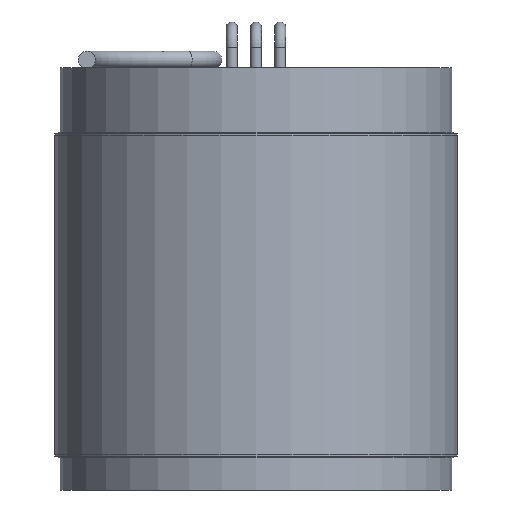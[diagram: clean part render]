
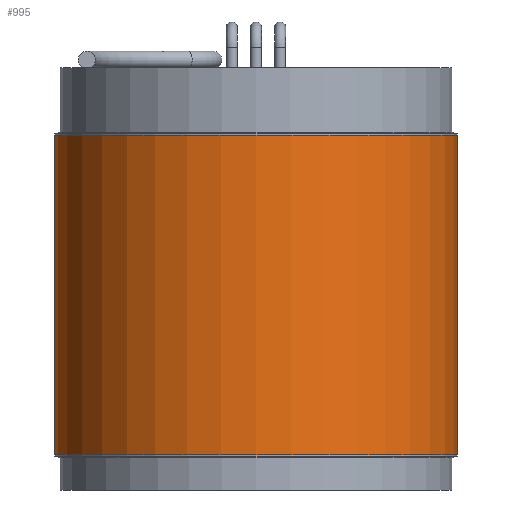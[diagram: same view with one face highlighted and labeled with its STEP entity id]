
A CAD part, front view. The second image highlights one B-rep face of the part: STEP entity #995.
In plain terms, the highlighted cylindrical face has radius 31.75 mm (diameter 63.5 mm), a full revolution.
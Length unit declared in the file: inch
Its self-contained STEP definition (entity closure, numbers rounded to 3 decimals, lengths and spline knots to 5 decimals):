
#93 = VERTEX_POINT ( 'NONE', #939 ) ;
#231 = FACE_OUTER_BOUND ( 'NONE', #669, .T. ) ;
#308 = DIRECTION ( 'NONE',  ( 0., 0., 1. ) ) ;
#350 = CYLINDRICAL_SURFACE ( 'NONE', #716, 1.25 ) ;
#463 = DIRECTION ( 'NONE',  ( 1., 0., 0. ) ) ;
#530 = CARTESIAN_POINT ( 'NONE',  ( 0., 0., -1.01 ) ) ;
#612 = AXIS2_PLACEMENT_3D ( 'NONE', #961, #308, #1074 ) ;
#669 = EDGE_LOOP ( 'NONE', ( #1366 ) ) ;
#691 = EDGE_CURVE ( 'NONE', #93, #93, #1273, .T. ) ;
#716 = AXIS2_PLACEMENT_3D ( 'NONE', #530, #1100, #463 ) ;
#719 = VERTEX_POINT ( 'NONE', #925 ) ;
#819 = CARTESIAN_POINT ( 'NONE',  ( 0., 0., 0.99213 ) ) ;
#925 = CARTESIAN_POINT ( 'NONE',  ( 1.25, 0., -0.99213 ) ) ;
#927 = DIRECTION ( 'NONE',  ( 0., 0., 1. ) ) ;
#939 = CARTESIAN_POINT ( 'NONE',  ( 1.25, 0., 0.99213 ) ) ;
#956 = EDGE_CURVE ( 'NONE', #719, #719, #1137, .T. ) ;
#961 = CARTESIAN_POINT ( 'NONE',  ( 0., 0., -0.99213 ) ) ;
#995 = ADVANCED_FACE ( 'NONE', ( #231, #1082 ), #350, .T. ) ;
#997 = EDGE_LOOP ( 'NONE', ( #1124 ) ) ;
#1074 = DIRECTION ( 'NONE',  ( 1., 0., 0. ) ) ;
#1082 = FACE_OUTER_BOUND ( 'NONE', #997, .T. ) ;
#1100 = DIRECTION ( 'NONE',  ( 0., 0., 1. ) ) ;
#1124 = ORIENTED_EDGE ( 'NONE', *, *, #956, .T. ) ;
#1137 = CIRCLE ( 'NONE', #612, 1.25 ) ;
#1269 = DIRECTION ( 'NONE',  ( 1., 0., 0. ) ) ;
#1273 = CIRCLE ( 'NONE', #1416, 1.25 ) ;
#1366 = ORIENTED_EDGE ( 'NONE', *, *, #691, .F. ) ;
#1416 = AXIS2_PLACEMENT_3D ( 'NONE', #819, #927, #1269 ) ;
